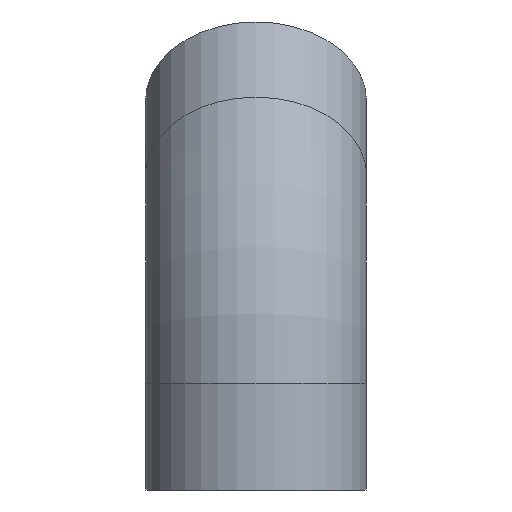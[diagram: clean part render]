
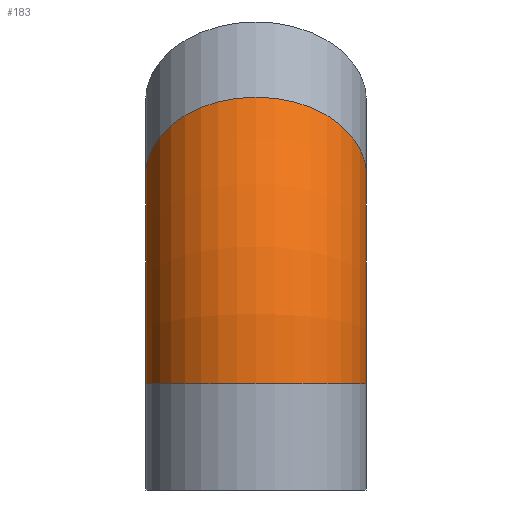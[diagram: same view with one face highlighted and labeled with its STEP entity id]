
A CAD part, left-side view. The second image highlights one B-rep face of the part: STEP entity #183.
In plain terms, the highlighted toroidal (fillet/blend) face has major radius 152.5 mm and minor radius 57.15 mm.
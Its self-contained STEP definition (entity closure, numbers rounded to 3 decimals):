
#152=CARTESIAN_POINT('',(85.077,0.,122.455));
#153=VERTEX_POINT('',#152);
#154=CARTESIAN_POINT('',(44.666,0.0,162.866));
#155=DIRECTION('',(-0.707,0.0,-0.707));
#156=DIRECTION('',(-0.707,0.0,0.707));
#157=AXIS2_PLACEMENT_3D('',#154,#155,#156);
#158=CIRCLE('',#157,57.15);
#159=EDGE_CURVE('',#153,#153,#158,.T.);
#164=CARTESIAN_POINT('',(152.5,0.0,55.032));
#165=DIRECTION('',(0.0,1.0,0.0));
#166=DIRECTION('',(0.0,0.0,1.0));
#167=AXIS2_PLACEMENT_3D('',#164,#165,#166);
#168=TOROIDAL_SURFACE('',#167,152.5,57.15);
#169=ORIENTED_EDGE('',*,*,#159,.T.);
#170=EDGE_LOOP('',(#169));
#171=FACE_OUTER_BOUND('',#170,.T.);
#172=CARTESIAN_POINT('',(57.15,0.,55.032));
#173=VERTEX_POINT('',#172);
#174=CARTESIAN_POINT('',(0.,0.0,55.032));
#175=DIRECTION('',(0.0,0.0,-1.0));
#176=DIRECTION('',(-1.0,0.0,0.0));
#177=AXIS2_PLACEMENT_3D('',#174,#175,#176);
#178=CIRCLE('',#177,57.15);
#179=EDGE_CURVE('',#173,#173,#178,.T.);
#180=ORIENTED_EDGE('',*,*,#179,.F.);
#181=EDGE_LOOP('',(#180));
#182=FACE_BOUND('',#181,.T.);
#183=ADVANCED_FACE('',(#171,#182),#168,.T.);
